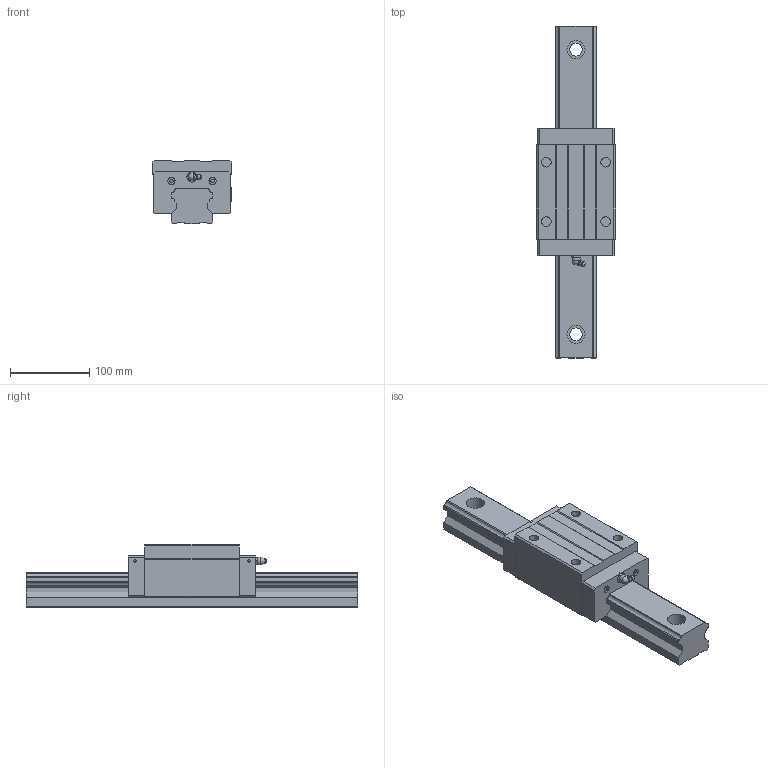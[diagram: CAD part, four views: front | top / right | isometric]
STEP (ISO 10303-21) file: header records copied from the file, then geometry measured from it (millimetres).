
FILE_DESCRIPTION(/* description */ (''),/* implementation_level */ '2;1');
FILE_NAME(/* name */ 'MSA55S',/* time_stamp */ '2005-12-26T16:30:23+08:00',/* author */ (''),/* organization */ (''),/* preprocessor_version */ 'ST-DEVELOPER v9',/* originating_system */ 'UGS - NX 3.0',/* authorisation */ '');
FILE_SCHEMA (('CONFIG_CONTROL_DESIGN'));
Length unit declared in the file: millimetre
Products named in the file (1): kevi37F33h40
Bounding box: 100 x 420 x 80 mm (x, y, z)
Volume: 1583936.2 mm3; surface area: 175860.2 mm2
Topology: 3 solids, 3 shells, 180 faces, 455 edges, 302 vertices
Faces by surface type: plane 122, cylinder 47, torus 7, sphere 2, cone 1, bspline 1
Full cylindrical faces by diameter (mm): 3.3 x4, 4.5 x4, 9 x4, 10 x1, 12 x4, 13 x2, 16 x4, 23 x4
Entity records: 5382 total; most frequent: CARTESIAN_POINT 1070, DIRECTION 863, ORIENTED_EDGE 826, EDGE_CURVE 413, AXIS2_PLACEMENT_3D 293, VERTEX_POINT 292, LINE 277, VECTOR 277
